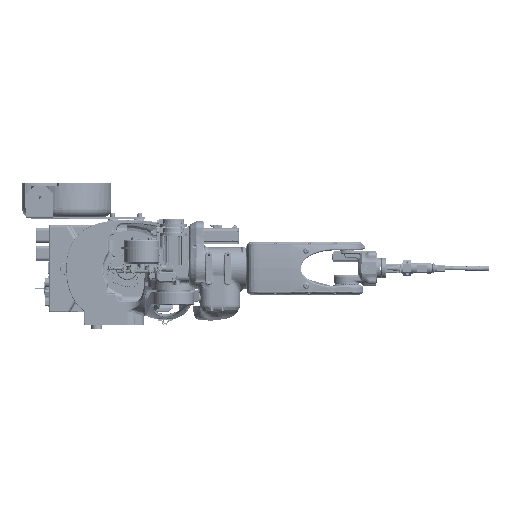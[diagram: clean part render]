
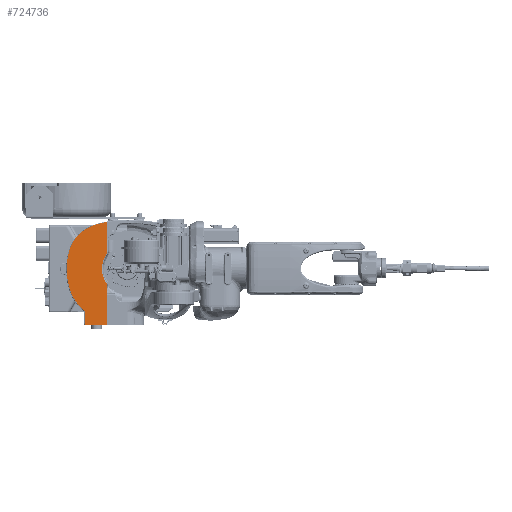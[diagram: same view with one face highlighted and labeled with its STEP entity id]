
A CAD part, top view. The second image highlights one B-rep face of the part: STEP entity #724736.
In plain terms, the highlighted planar face has unit normal (0, 0, 1).
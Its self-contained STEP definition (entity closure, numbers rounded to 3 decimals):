
#14101 = DIRECTION ( 'NONE',  ( 0., 0., -1. ) ) ;
#31221 = CIRCLE ( 'NONE', #570039, 5. ) ;
#33904 = CIRCLE ( 'NONE', #241620, 18. ) ;
#45349 = CARTESIAN_POINT ( 'NONE',  ( -221.709, 244.967, -29.191 ) ) ;
#45926 = CARTESIAN_POINT ( 'NONE',  ( -230.442, 109.27, -29.191 ) ) ;
#51026 = CARTESIAN_POINT ( 'NONE',  ( -142.709, 78.417, -29.191 ) ) ;
#54992 = DIRECTION ( 'NONE',  ( 0., 1., 0. ) ) ;
#57043 = CARTESIAN_POINT ( 'NONE',  ( -304.709, -124.583, -29.191 ) ) ;
#72041 = ORIENTED_EDGE ( 'NONE', *, *, #508440, .T. ) ;
#75114 = VERTEX_POINT ( 'NONE', #716988 ) ;
#76375 = CARTESIAN_POINT ( 'NONE',  ( -148.709, 78.417, -29.191 ) ) ;
#78016 = DIRECTION ( 'NONE',  ( 0., 0., 1. ) ) ;
#80127 = DIRECTION ( 'NONE',  ( 0., -1., 0. ) ) ;
#80958 = CARTESIAN_POINT ( 'NONE',  ( -226.709, 244.967, -29.191 ) ) ;
#85505 = CARTESIAN_POINT ( 'NONE',  ( -221.709, 278.417, -29.191 ) ) ;
#90073 = CARTESIAN_POINT ( 'NONE',  ( -221.709, -124.583, -29.191 ) ) ;
#90203 = VECTOR ( 'NONE', #54992, 1000. ) ;
#100262 = CARTESIAN_POINT ( 'NONE',  ( -304.709, 78.417, -29.191 ) ) ;
#100374 = EDGE_CURVE ( 'NONE', #739419, #75114, #307300, .T. ) ;
#105707 = CARTESIAN_POINT ( 'NONE',  ( -227.422, 249.916, -29.191 ) ) ;
#111911 = CARTESIAN_POINT ( 'NONE',  ( -281.265, 235.417, -29.191 ) ) ;
#114016 = VERTEX_POINT ( 'NONE', #503151 ) ;
#122201 = VERTEX_POINT ( 'NONE', #480311 ) ;
#122888 = ORIENTED_EDGE ( 'NONE', *, *, #487668, .T. ) ;
#134622 = EDGE_CURVE ( 'NONE', #244687, #291975, #300211, .T. ) ;
#136984 = AXIS2_PLACEMENT_3D ( 'NONE', #51026, #288313, #698425 ) ;
#145121 = VERTEX_POINT ( 'NONE', #111911 ) ;
#145440 = ORIENTED_EDGE ( 'NONE', *, *, #148586, .T. ) ;
#147818 = CIRCLE ( 'NONE', #552070, 5. ) ;
#148586 = EDGE_CURVE ( 'NONE', #114016, #222757, #601403, .T. ) ;
#152032 = DIRECTION ( 'NONE',  ( 0., -1., 0. ) ) ;
#158418 = LINE ( 'NONE', #579890, #90203 ) ;
#178998 = EDGE_CURVE ( 'NONE', #604715, #746797, #667928, .T. ) ;
#179993 = PLANE ( 'NONE',  #644699 ) ;
#183205 = ORIENTED_EDGE ( 'NONE', *, *, #414649, .T. ) ;
#193469 = DIRECTION ( 'NONE',  ( 0., 0., 1. ) ) ;
#209445 = DIRECTION ( 'NONE',  ( 0., 0., 1. ) ) ;
#215366 = ORIENTED_EDGE ( 'NONE', *, *, #287042, .T. ) ;
#215907 = EDGE_CURVE ( 'NONE', #75114, #122201, #33904, .T. ) ;
#222757 = VERTEX_POINT ( 'NONE', #632042 ) ;
#238462 = DIRECTION ( 'NONE',  ( 0., 0., -1. ) ) ;
#239553 = ORIENTED_EDGE ( 'NONE', *, *, #298664, .T. ) ;
#241620 = AXIS2_PLACEMENT_3D ( 'NONE', #709823, #238462, #537228 ) ;
#244687 = VERTEX_POINT ( 'NONE', #45349 ) ;
#252541 = VECTOR ( 'NONE', #452549, 1000. ) ;
#255954 = CARTESIAN_POINT ( 'NONE',  ( -221.709, 136.037, -29.191 ) ) ;
#270013 = DIRECTION ( 'NONE',  ( 0., -1., 0. ) ) ;
#271218 = CARTESIAN_POINT ( 'NONE',  ( -356.039, -8.07, -29.191 ) ) ;
#275373 = VERTEX_POINT ( 'NONE', #57043 ) ;
#276543 = ORIENTED_EDGE ( 'NONE', *, *, #512643, .T. ) ;
#281421 = EDGE_CURVE ( 'NONE', #644693, #145121, #438063, .T. ) ;
#287042 = EDGE_CURVE ( 'NONE', #549207, #244687, #158418, .T. ) ;
#288313 = DIRECTION ( 'NONE',  ( 0., 0., 1. ) ) ;
#291975 = VERTEX_POINT ( 'NONE', #707717 ) ;
#293350 = ORIENTED_EDGE ( 'NONE', *, *, #719950, .T. ) ;
#296025 = ORIENTED_EDGE ( 'NONE', *, *, #178998, .T. ) ;
#298664 = EDGE_CURVE ( 'NONE', #122201, #275373, #563866, .T. ) ;
#300211 = CIRCLE ( 'NONE', #544726, 5. ) ;
#300239 = CARTESIAN_POINT ( 'NONE',  ( -226.709, -124.583, -29.191 ) ) ;
#307300 = CIRCLE ( 'NONE', #490511, 148. ) ;
#314469 = DIRECTION ( 'NONE',  ( 0., -1., 0. ) ) ;
#323728 = CARTESIAN_POINT ( 'NONE',  ( -194.194, 19.298, -29.191 ) ) ;
#335995 = AXIS2_PLACEMENT_3D ( 'NONE', #45926, #466963, #689529 ) ;
#337541 = CIRCLE ( 'NONE', #582219, 246.5 ) ;
#338012 = EDGE_LOOP ( 'NONE', ( #293350, #145440, #600119, #296025, #183205, #215366, #393267, #122888, #397078, #622873, #72041, #276543, #582848, #629490, #239553 ) ) ;
#341670 = CIRCLE ( 'NONE', #524965, 5. ) ;
#371445 = CARTESIAN_POINT ( 'NONE',  ( -148.709, -129.583, -29.191 ) ) ;
#372088 = DIRECTION ( 'NONE',  ( 0., 0., 1. ) ) ;
#377161 = DIRECTION ( 'NONE',  ( 0., -1., 0. ) ) ;
#385375 = VERTEX_POINT ( 'NONE', #512309 ) ;
#388513 = CIRCLE ( 'NONE', #645241, 93. ) ;
#393267 = ORIENTED_EDGE ( 'NONE', *, *, #134622, .T. ) ;
#397078 = ORIENTED_EDGE ( 'NONE', *, *, #281421, .T. ) ;
#407809 = VERTEX_POINT ( 'NONE', #519601 ) ;
#414649 = EDGE_CURVE ( 'NONE', #746797, #549207, #388513, .T. ) ;
#429100 = VECTOR ( 'NONE', #658877, 1000. ) ;
#438063 = CIRCLE ( 'NONE', #756672, 233. ) ;
#452549 = DIRECTION ( 'NONE',  ( 0., -1., 0. ) ) ;
#466963 = DIRECTION ( 'NONE',  ( 0., 0., 1. ) ) ;
#480311 = CARTESIAN_POINT ( 'NONE',  ( -304.709, -84.501, -29.191 ) ) ;
#485054 = DIRECTION ( 'NONE',  ( 0., -1., 0. ) ) ;
#487668 = EDGE_CURVE ( 'NONE', #291975, #644693, #341670, .T. ) ;
#490511 = AXIS2_PLACEMENT_3D ( 'NONE', #605012, #547440, #80127 ) ;
#496814 = CARTESIAN_POINT ( 'NONE',  ( -125.209, 78.417, -29.191 ) ) ;
#503151 = CARTESIAN_POINT ( 'NONE',  ( -299.709, -129.583, -29.191 ) ) ;
#504519 = DIRECTION ( 'NONE',  ( 0., 0., 1. ) ) ;
#508440 = EDGE_CURVE ( 'NONE', #407809, #385375, #589910, .T. ) ;
#512309 = CARTESIAN_POINT ( 'NONE',  ( -371.709, 78.417, -29.191 ) ) ;
#512643 = EDGE_CURVE ( 'NONE', #385375, #739419, #337541, .T. ) ;
#519601 = CARTESIAN_POINT ( 'NONE',  ( -358.74, 154.388, -29.191 ) ) ;
#524965 = AXIS2_PLACEMENT_3D ( 'NONE', #549662, #193469, #377161 ) ;
#532010 = EDGE_CURVE ( 'NONE', #222757, #604715, #31221, .T. ) ;
#532347 = FACE_OUTER_BOUND ( 'NONE', #338012, .T. ) ;
#535051 = CARTESIAN_POINT ( 'NONE',  ( -148.709, 78.417, -29.191 ) ) ;
#537228 = DIRECTION ( 'NONE',  ( 0., -1., 0. ) ) ;
#544726 = AXIS2_PLACEMENT_3D ( 'NONE', #80958, #372088, #314469 ) ;
#545305 = DIRECTION ( 'NONE',  ( 0., -1., 0. ) ) ;
#547440 = DIRECTION ( 'NONE',  ( 0., 0., 1. ) ) ;
#549207 = VERTEX_POINT ( 'NONE', #255954 ) ;
#549662 = CARTESIAN_POINT ( 'NONE',  ( -226.709, 244.967, -29.191 ) ) ;
#550613 = DIRECTION ( 'NONE',  ( 0., -1., 0. ) ) ;
#552070 = AXIS2_PLACEMENT_3D ( 'NONE', #676999, #504519, #152032 ) ;
#563866 = LINE ( 'NONE', #100262, #252541 ) ;
#570039 = AXIS2_PLACEMENT_3D ( 'NONE', #300239, #78016, #545305 ) ;
#579890 = CARTESIAN_POINT ( 'NONE',  ( -221.709, 278.417, -29.191 ) ) ;
#581973 = VECTOR ( 'NONE', #656592, 1000. ) ;
#582219 = AXIS2_PLACEMENT_3D ( 'NONE', #496814, #209445, #550613 ) ;
#582848 = ORIENTED_EDGE ( 'NONE', *, *, #100374, .T. ) ;
#589910 = CIRCLE ( 'NONE', #136984, 229. ) ;
#600119 = ORIENTED_EDGE ( 'NONE', *, *, #532010, .T. ) ;
#601221 = DIRECTION ( 'NONE',  ( 0., -1., 0. ) ) ;
#601403 = LINE ( 'NONE', #371445, #429100 ) ;
#604715 = VERTEX_POINT ( 'NONE', #90073 ) ;
#605012 = CARTESIAN_POINT ( 'NONE',  ( -217.447, 43.857, -29.191 ) ) ;
#611246 = DIRECTION ( 'NONE',  ( 0., 0., 1. ) ) ;
#615706 = CARTESIAN_POINT ( 'NONE',  ( -221.709, 20.798, -29.191 ) ) ;
#622873 = ORIENTED_EDGE ( 'NONE', *, *, #745979, .T. ) ;
#629490 = ORIENTED_EDGE ( 'NONE', *, *, #215907, .T. ) ;
#632042 = CARTESIAN_POINT ( 'NONE',  ( -226.709, -129.583, -29.191 ) ) ;
#644693 = VERTEX_POINT ( 'NONE', #105707 ) ;
#644699 = AXIS2_PLACEMENT_3D ( 'NONE', #76375, #716256, #601221 ) ;
#645241 = AXIS2_PLACEMENT_3D ( 'NONE', #535051, #14101, #485054 ) ;
#656592 = DIRECTION ( 'NONE',  ( 0., 1., 0. ) ) ;
#658877 = DIRECTION ( 'NONE',  ( 1., 0., 0. ) ) ;
#667928 = LINE ( 'NONE', #85505, #581973 ) ;
#676999 = CARTESIAN_POINT ( 'NONE',  ( -299.709, -124.583, -29.191 ) ) ;
#689529 = DIRECTION ( 'NONE',  ( 0., -1., 0. ) ) ;
#691105 = CIRCLE ( 'NONE', #335995, 136. ) ;
#698425 = DIRECTION ( 'NONE',  ( 0., -1., 0. ) ) ;
#707717 = CARTESIAN_POINT ( 'NONE',  ( -226.709, 249.967, -29.191 ) ) ;
#709823 = CARTESIAN_POINT ( 'NONE',  ( -322.709, -84.501, -29.191 ) ) ;
#716256 = DIRECTION ( 'NONE',  ( 0., 0., 1. ) ) ;
#716988 = CARTESIAN_POINT ( 'NONE',  ( -311.295, -70.583, -29.191 ) ) ;
#719950 = EDGE_CURVE ( 'NONE', #275373, #114016, #147818, .T. ) ;
#724736 = ADVANCED_FACE ( 'NONE', ( #532347 ), #179993, .T. ) ;
#739419 = VERTEX_POINT ( 'NONE', #271218 ) ;
#745979 = EDGE_CURVE ( 'NONE', #145121, #407809, #691105, .T. ) ;
#746797 = VERTEX_POINT ( 'NONE', #615706 ) ;
#756672 = AXIS2_PLACEMENT_3D ( 'NONE', #323728, #611246, #270013 ) ;
